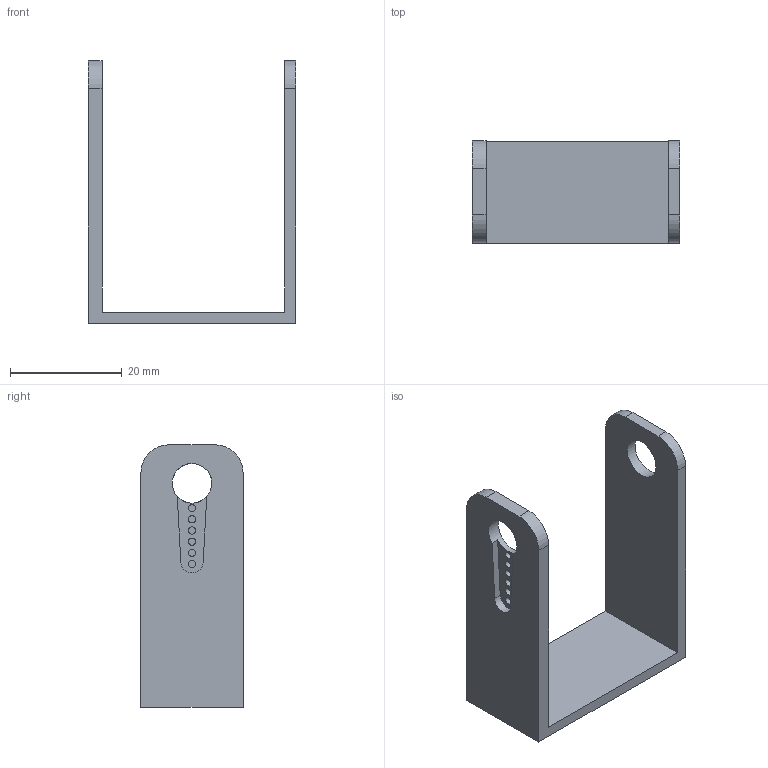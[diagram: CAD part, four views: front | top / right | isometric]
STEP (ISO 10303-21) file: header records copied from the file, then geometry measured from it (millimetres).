
FILE_DESCRIPTION(/* description */ (''),/* implementation_level */ '2;1');
FILE_NAME(/* name */ 'Long Wrist_v16.tmp.step',/* time_stamp */ '2026-11-01T13:10:05+02:00',/* author */ (''),/* organization */ (''),/* preprocessor_version */ 'ST-DEVELOPER v20.2',/* originating_system */ 'Autodesk Translation Framework v15.15.0.0',/* authorisation */ '');
FILE_SCHEMA (('AUTOMOTIVE_DESIGN { 1 0 10303 214 3 1 1 }'));
Length unit declared in the file: millimetre
Products named in the file (1): Long Wrist
Bounding box: 37.2 x 18.3 x 47 mm (x, y, z)
Volume: 4748.8 mm3; surface area: 5203.3 mm2
Topology: 1 solids, 1 shells, 26 faces, 72 edges, 48 vertices
Faces by surface type: cylinder 13, plane 13
Full cylindrical faces by diameter (mm): 1.3 x6, 7.1 x1, 7.3 x1
Entity records: 909 total; most frequent: DIRECTION 154, CARTESIAN_POINT 147, ORIENTED_EDGE 144, EDGE_CURVE 72, AXIS2_PLACEMENT_3D 55, VERTEX_POINT 48, LINE 44, VECTOR 44
